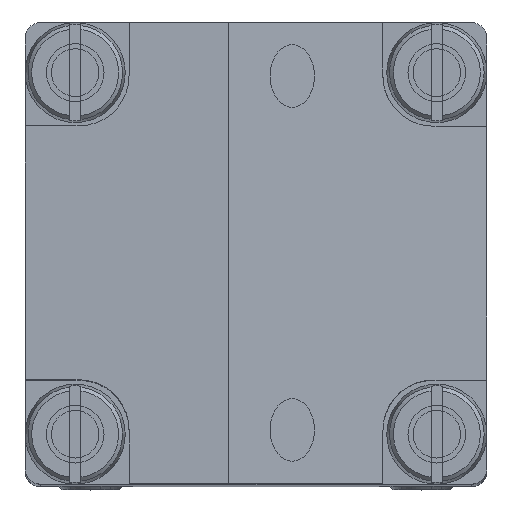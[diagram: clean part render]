
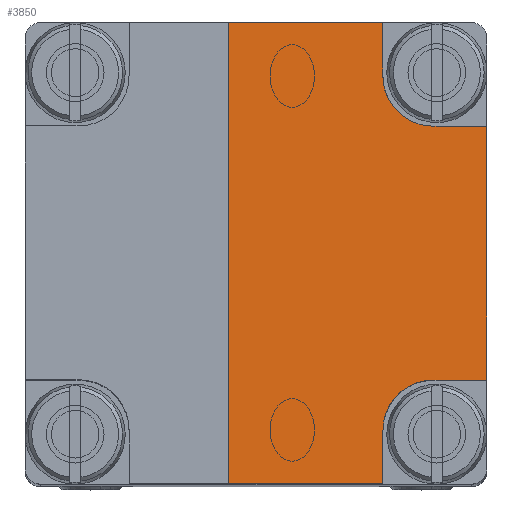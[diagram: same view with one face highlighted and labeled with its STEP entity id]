
A CAD part, top view. The second image highlights one B-rep face of the part: STEP entity #3850.
In plain terms, the highlighted planar face has unit normal (0.707, 0, 0.707) as drawn and (0, 0.707, 0.707) by its records, which use the part's own axes.
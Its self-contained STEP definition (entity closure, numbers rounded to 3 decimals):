
#118=ELLIPSE('',#4334,1.838,1.3);
#119=ELLIPSE('',#4335,1.838,1.3);
#339=PLANE('',#4333);
#613=FACE_OUTER_BOUND('',#886,.T.);
#886=EDGE_LOOP('',(#3401,#3402,#3403,#3404,#3405,#3406,#3407,#3408,#3409,
#3410));
#1116=LINE('',#44218,#1385);
#1152=LINE('',#44327,#1421);
#1153=LINE('',#44331,#1422);
#1154=LINE('',#44333,#1423);
#1155=LINE('',#44336,#1424);
#1156=LINE('',#44340,#1425);
#1157=LINE('',#44342,#1426);
#1158=LINE('',#44343,#1427);
#1385=VECTOR('',#5198,10.);
#1421=VECTOR('',#5300,10.);
#1422=VECTOR('',#5303,10.);
#1423=VECTOR('',#5304,10.);
#1424=VECTOR('',#5307,10.);
#1425=VECTOR('',#5310,10.);
#1426=VECTOR('',#5311,10.);
#1427=VECTOR('',#5312,10.);
#1904=VERTEX_POINT('',#44215);
#1905=VERTEX_POINT('',#44217);
#1945=VERTEX_POINT('',#44325);
#1946=VERTEX_POINT('',#44329);
#1947=VERTEX_POINT('',#44330);
#1948=VERTEX_POINT('',#44332);
#1949=VERTEX_POINT('',#44334);
#1950=VERTEX_POINT('',#44337);
#1951=VERTEX_POINT('',#44339);
#1952=VERTEX_POINT('',#44341);
#2390=EDGE_CURVE('',#1905,#1904,#1116,.T.);
#2444=EDGE_CURVE('',#1904,#1945,#1152,.T.);
#2445=EDGE_CURVE('',#1946,#1947,#1153,.T.);
#2446=EDGE_CURVE('',#1947,#1948,#1154,.T.);
#2447=EDGE_CURVE('',#1948,#1949,#118,.T.);
#2448=EDGE_CURVE('',#1949,#1905,#1155,.T.);
#2449=EDGE_CURVE('',#1945,#1950,#119,.T.);
#2450=EDGE_CURVE('',#1950,#1951,#1156,.T.);
#2451=EDGE_CURVE('',#1951,#1952,#1157,.T.);
#2452=EDGE_CURVE('',#1952,#1946,#1158,.T.);
#3401=ORIENTED_EDGE('',*,*,#2445,.T.);
#3402=ORIENTED_EDGE('',*,*,#2446,.T.);
#3403=ORIENTED_EDGE('',*,*,#2447,.T.);
#3404=ORIENTED_EDGE('',*,*,#2448,.T.);
#3405=ORIENTED_EDGE('',*,*,#2390,.T.);
#3406=ORIENTED_EDGE('',*,*,#2444,.T.);
#3407=ORIENTED_EDGE('',*,*,#2449,.T.);
#3408=ORIENTED_EDGE('',*,*,#2450,.T.);
#3409=ORIENTED_EDGE('',*,*,#2451,.T.);
#3410=ORIENTED_EDGE('',*,*,#2452,.T.);
#3850=ADVANCED_FACE('',(#613),#339,.T.);
#4333=AXIS2_PLACEMENT_3D('',#44328,#5301,#5302);
#4334=AXIS2_PLACEMENT_3D('',#44335,#5305,#5306);
#4335=AXIS2_PLACEMENT_3D('',#44338,#5308,#5309);
#5198=DIRECTION('',(-1.,0.,0.));
#5300=DIRECTION('',(0.,-0.707,0.707));
#5301=DIRECTION('center_axis',(0.,0.707,0.707));
#5302=DIRECTION('ref_axis',(1.,0.,0.));
#5303=DIRECTION('',(0.,0.707,-0.707));
#5304=DIRECTION('',(-1.,0.,0.));
#5305=DIRECTION('center_axis',(0.,-0.707,-0.707));
#5306=DIRECTION('ref_axis',(0.,-0.707,0.707));
#5307=DIRECTION('',(0.,0.707,-0.707));
#5308=DIRECTION('center_axis',(0.,-0.707,-0.707));
#5309=DIRECTION('ref_axis',(0.,-0.707,0.707));
#5310=DIRECTION('',(-1.,0.,0.));
#5311=DIRECTION('',(0.,-0.707,0.707));
#5312=DIRECTION('',(1.,0.,0.));
#44215=CARTESIAN_POINT('',(-3.3,6.,2.98));
#44217=CARTESIAN_POINT('',(3.3,6.,2.98));
#44218=CARTESIAN_POINT('',(1.65,6.,2.98));
#44325=CARTESIAN_POINT('',(-3.3,4.6,4.38));
#44327=CARTESIAN_POINT('',(-3.3,6.89,2.09));
#44328=CARTESIAN_POINT('Origin',(0.,2.64,
6.34));
#44329=CARTESIAN_POINT('',(6.,-0.72,9.7));
#44330=CARTESIAN_POINT('',(6.,3.3,5.68));
#44331=CARTESIAN_POINT('',(6.,-1.71,10.69));
#44332=CARTESIAN_POINT('',(4.6,3.3,5.68));
#44333=CARTESIAN_POINT('',(2.3,3.3,5.68));
#44334=CARTESIAN_POINT('',(3.3,4.6,4.38));
#44335=CARTESIAN_POINT('Origin',(4.6,4.6,4.38));
#44336=CARTESIAN_POINT('',(3.3,5.59,3.39));
#44337=CARTESIAN_POINT('',(-4.6,3.3,5.68));
#44338=CARTESIAN_POINT('Origin',(-4.6,4.6,4.38));
#44339=CARTESIAN_POINT('',(-6.,3.3,5.68));
#44340=CARTESIAN_POINT('',(-3.,3.3,5.68));
#44341=CARTESIAN_POINT('',(-6.,-0.72,9.7));
#44342=CARTESIAN_POINT('',(-6.,4.29,4.69));
#44343=CARTESIAN_POINT('',(3.,-0.72,9.7));
